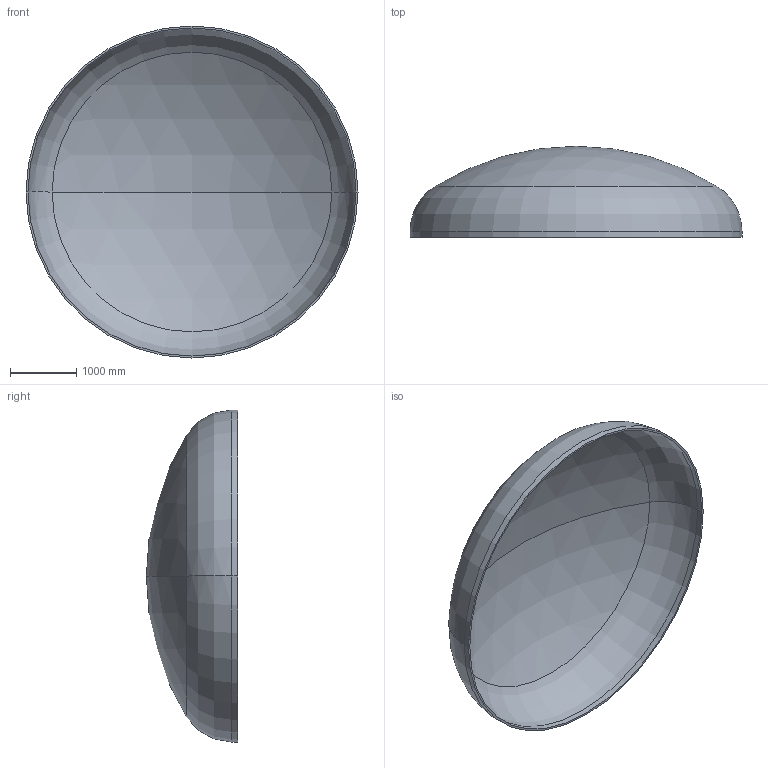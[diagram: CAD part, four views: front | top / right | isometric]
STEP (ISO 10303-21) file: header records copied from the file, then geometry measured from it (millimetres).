
FILE_DESCRIPTION (( 'STEP AP203' ), '1' );
FILE_NAME ('DIN 28013 Korbbogenform_-_Boden DIN 28013 - 5000 x 90 - I - s=29.step', '2016-07-02T00:18:47', ( '' ), ( '' ), 'SwSTEP 2.0', 'SolidWorks 2013', '' );
FILE_SCHEMA (( 'CONFIG_CONTROL_DESIGN' ));
Length unit declared in the file: millimetre
Products named in the file (1): DIN 28013 Korbbogenform_-_Boden DIN 28013 - 5000 x 90 - I - s=29
Bounding box: 5000 x 1373.19 x 5000 mm (x, y, z)
Volume: 823385005.6 mm3; surface area: 57239800.8 mm2
Topology: 1 solids, 1 shells, 13 faces, 24 edges, 14 vertices
Faces by surface type: torus 4, cylinder 4, sphere 4, plane 1
Entity records: 407 total; most frequent: DIRECTION 72, CARTESIAN_POINT 52, ORIENTED_EDGE 48, AXIS2_PLACEMENT_3D 34, EDGE_CURVE 24, CIRCLE 20, VERTEX_POINT 14, EDGE_LOOP 14
